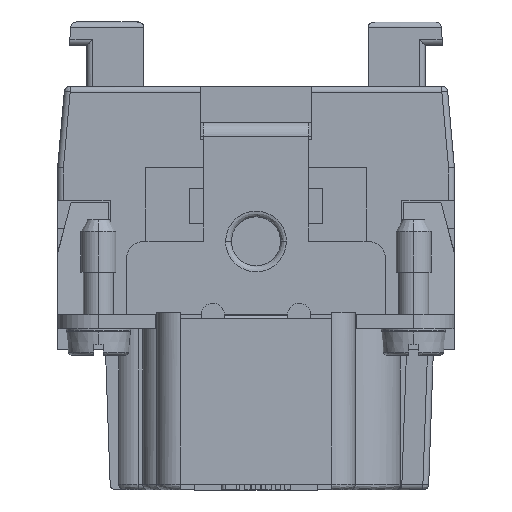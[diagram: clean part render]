
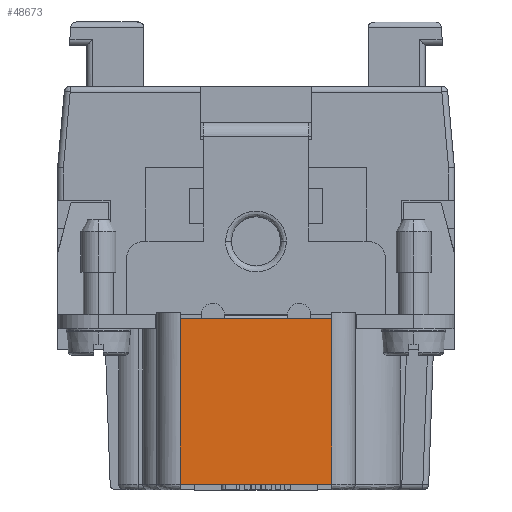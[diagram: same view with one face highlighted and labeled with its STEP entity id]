
A CAD part, left-side view. The second image highlights one B-rep face of the part: STEP entity #48673.
In plain terms, the highlighted planar face has unit normal (-1, 0, 0).
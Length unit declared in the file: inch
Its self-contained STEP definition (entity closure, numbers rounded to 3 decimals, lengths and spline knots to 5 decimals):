
#6147 = CARTESIAN_POINT ( 'NONE',  ( 1.27739, 1.38487, 0. ) ) ;
#6572 = PLANE ( 'NONE',  #29216 ) ;
#11175 = DIRECTION ( 'NONE',  ( -1., 0., 0. ) ) ;
#12689 = EDGE_CURVE ( 'NONE', #53584, #14981, #21434, .T. ) ;
#14981 = VERTEX_POINT ( 'NONE', #34417 ) ;
#18249 = EDGE_CURVE ( 'NONE', #14981, #48317, #25937, .T. ) ;
#21434 = LINE ( 'NONE', #34005, #45657 ) ;
#25302 = CARTESIAN_POINT ( 'NONE',  ( 1.27739, 1.38487, -0.18898 ) ) ;
#25816 = VECTOR ( 'NONE', #54923, 39.37008 ) ;
#25937 = LINE ( 'NONE', #6147, #38082 ) ;
#26092 = EDGE_CURVE ( 'NONE', #48317, #57557, #49981, .T. ) ;
#29216 = AXIS2_PLACEMENT_3D ( 'NONE', #33834, #11175, #42961 ) ;
#30634 = LINE ( 'NONE', #46499, #42745 ) ;
#30702 = ORIENTED_EDGE ( 'NONE', *, *, #57046, .F. ) ;
#32449 = EDGE_LOOP ( 'NONE', ( #34513, #41022, #50716, #30702 ) ) ;
#33001 = DIRECTION ( 'NONE',  ( 0., 0., -1. ) ) ;
#33834 = CARTESIAN_POINT ( 'NONE',  ( 1.27739, 0.45967, -0.14567 ) ) ;
#34005 = CARTESIAN_POINT ( 'NONE',  ( 1.27739, 0.86403, -0.74803 ) ) ;
#34417 = CARTESIAN_POINT ( 'NONE',  ( 1.27739, 1.38487, -0.74803 ) ) ;
#34513 = ORIENTED_EDGE ( 'NONE', *, *, #26092, .F. ) ;
#38082 = VECTOR ( 'NONE', #51677, 39.37008 ) ;
#41022 = ORIENTED_EDGE ( 'NONE', *, *, #18249, .F. ) ;
#41473 = CARTESIAN_POINT ( 'NONE',  ( 1.27739, 0.87306, -0.18898 ) ) ;
#42745 = VECTOR ( 'NONE', #33001, 39.37008 ) ;
#42961 = DIRECTION ( 'NONE',  ( 0., 0., 1. ) ) ;
#43140 = DIRECTION ( 'NONE',  ( 0., 1., 0. ) ) ;
#45502 = CARTESIAN_POINT ( 'NONE',  ( 1.27739, 0.87306, -0.74803 ) ) ;
#45657 = VECTOR ( 'NONE', #43140, 39.37008 ) ;
#46499 = CARTESIAN_POINT ( 'NONE',  ( 1.27739, 0.87306, 0. ) ) ;
#48317 = VERTEX_POINT ( 'NONE', #25302 ) ;
#48673 = ADVANCED_FACE ( 'NONE', ( #53871 ), #6572, .T. ) ;
#49981 = LINE ( 'NONE', #50334, #25816 ) ;
#50334 = CARTESIAN_POINT ( 'NONE',  ( 1.27739, 1.13853, -0.18898 ) ) ;
#50716 = ORIENTED_EDGE ( 'NONE', *, *, #12689, .F. ) ;
#51677 = DIRECTION ( 'NONE',  ( 0., 0., 1. ) ) ;
#53584 = VERTEX_POINT ( 'NONE', #45502 ) ;
#53871 = FACE_OUTER_BOUND ( 'NONE', #32449, .T. ) ;
#54923 = DIRECTION ( 'NONE',  ( 0., -1., 0. ) ) ;
#57046 = EDGE_CURVE ( 'NONE', #57557, #53584, #30634, .T. ) ;
#57557 = VERTEX_POINT ( 'NONE', #41473 ) ;
